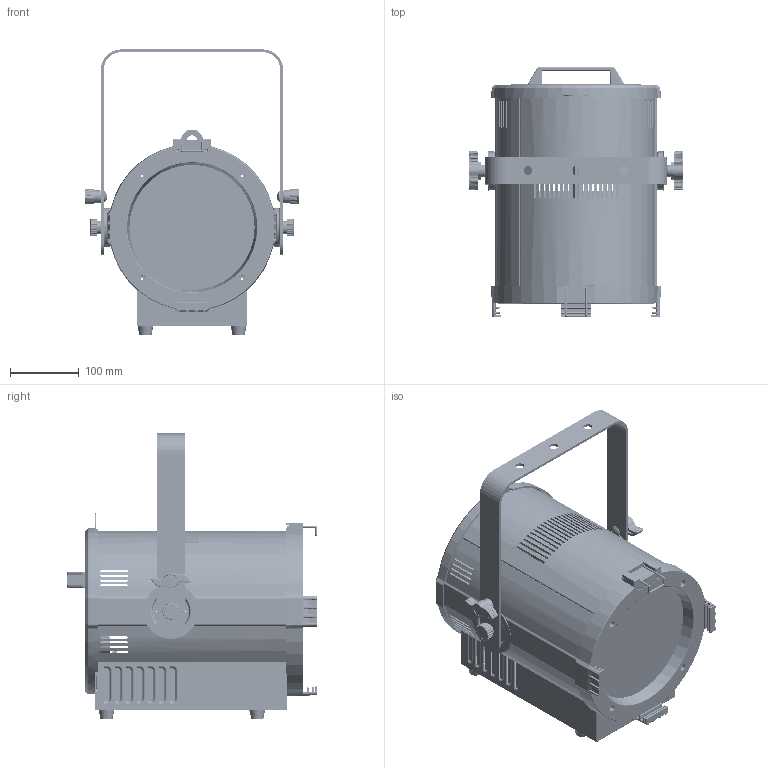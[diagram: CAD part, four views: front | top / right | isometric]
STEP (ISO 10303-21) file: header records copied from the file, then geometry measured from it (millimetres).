
FILE_DESCRIPTION((''),'2;1');
FILE_NAME('200WX0001_ASM','2025-07-07T16:49:58',('ALY'),(''),'CREO PARAMETRIC BY PTC INC, 2022164','CREO PARAMETRIC BY PTC INC, 2022164','');
FILE_SCHEMA(('AUTOMOTIVE_DESIGN { 1 0 10303 214 1 1 1 1 }'));
Products named in the file (37): 3X50002; BXSZ-A__A___; 0001; 0002; 0003; TJ-42_S_; HG-21_; SB-CX_S_; 155_; 350002; 3P000; 5P000; 350001_ASM; M4X8-0001; 3X50001_ASM; 111KK___; WE-QW_A___; SGB-J_A___; DYH-J__A___; DJ-SL_A___; DYH-J__A____ASM; TSGD___; XY-80___; TS-334___; LS-F___; CJ-29___; LWGD-200_; TK-SL2___; 3344___; GDJ-3___; YKL-400_; TB-4____ASM; XN-88; NY-S; 200WX0001_ASM
Assembly tree (45 placements, depth 4):
  200WX0001_ASM
    3X50001_ASM
      3X50002
      BXSZ-A__A___
      0001
      0002
      0003
      TJ-42_S_
      HG-21_
      SB-CX_S_
      155_
      350001_ASM
        350002
        3P000
        3P000
        5P000
        5P000
      M4X8-0001
    111KK___
    WE-QW_A___
    SGB-J_A___
    DYH-J__A____ASM
      DYH-J__A___
      DJ-SL_A___  x4
    TSGD___  x2
    XY-80___  x2
    TS-334___
    LS-F___  x2
    CJ-29___  x2
    LWGD-200_
    TB-4____ASM
      TK-SL2___
      3344___
      GDJ-3___
      YKL-400_
    XN-88  x2
    NY-S  x2
Bounding box: 313.82 x 365.5 x 416.5 mm (x, y, z)
Volume: 1400400.6 mm3; surface area: 1250364.5 mm2
Topology: 41 solids, 45 shells, 5895 faces, 14827 edges, 9146 vertices
Faces by surface type: plane 2079, cylinder 1757, bspline 1046, torus 628, cone 277, sphere 108
Entity records: 234114 total; most frequent: CARTESIAN_POINT 66966, ORIENTED_EDGE 25994, DIRECTION 24589, EDGE_CURVE 12997, PRESENTATION_STYLE_ASSIGNMENT 11521, STYLED_ITEM 10940, CURVE_STYLE 10201, AXIS2_PLACEMENT_3D 8917
